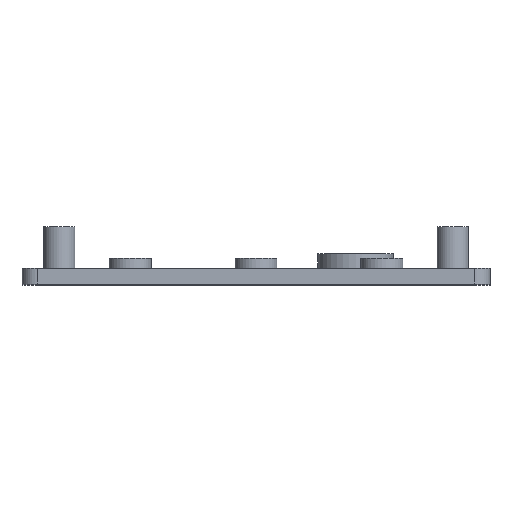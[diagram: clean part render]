
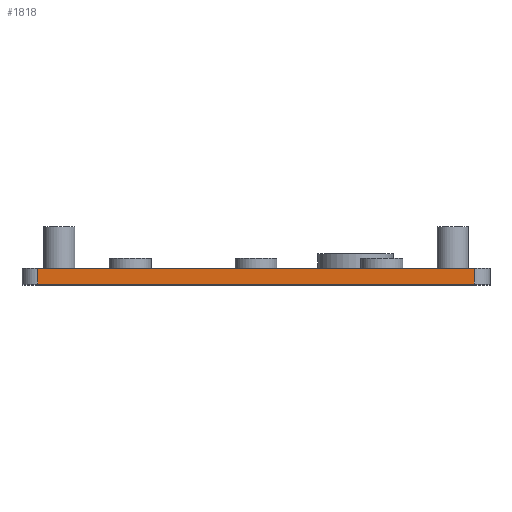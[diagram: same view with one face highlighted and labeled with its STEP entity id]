
A CAD part, top view. The second image highlights one B-rep face of the part: STEP entity #1818.
In plain terms, the highlighted planar face has unit normal (0, 0, 1).
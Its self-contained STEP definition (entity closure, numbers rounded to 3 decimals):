
#44 = PLANE('',#45);
#45 = AXIS2_PLACEMENT_3D('',#46,#47,#48);
#46 = CARTESIAN_POINT('',(3.4,1.,3.4));
#47 = DIRECTION('',(-0.,1.,0.));
#48 = DIRECTION('',(0.,0.,1.));
#100 = PLANE('',#101);
#101 = AXIS2_PLACEMENT_3D('',#102,#103,#104);
#102 = CARTESIAN_POINT('',(3.4,4.,3.4));
#103 = DIRECTION('',(-0.,1.,0.));
#104 = DIRECTION('',(0.,0.,1.));
#126 = CYLINDRICAL_SURFACE('',#127,3.);
#127 = AXIS2_PLACEMENT_3D('',#128,#129,#130);
#128 = CARTESIAN_POINT('',(6.4,1.,151.6));
#129 = DIRECTION('',(-0.,1.,0.));
#130 = DIRECTION('',(-1.,-0.,0.));
#199 = VERTEX_POINT('',#200);
#200 = CARTESIAN_POINT('',(6.4,1.,154.6));
#222 = EDGE_CURVE('',#199,#223,#225,.T.);
#223 = VERTEX_POINT('',#224);
#224 = CARTESIAN_POINT('',(89.6,1.,154.6));
#225 = SURFACE_CURVE('',#226,(#230,#237),.PCURVE_S1.);
#226 = LINE('',#227,#228);
#227 = CARTESIAN_POINT('',(3.4,1.,154.6));
#228 = VECTOR('',#229,1.);
#229 = DIRECTION('',(1.,0.,-0.));
#230 = PCURVE('',#44,#231);
#231 = DEFINITIONAL_REPRESENTATION('',(#232),#236);
#232 = LINE('',#233,#234);
#233 = CARTESIAN_POINT('',(151.2,0.));
#234 = VECTOR('',#235,1.);
#235 = DIRECTION('',(0.,1.));
#236 = ( GEOMETRIC_REPRESENTATION_CONTEXT(2)
PARAMETRIC_REPRESENTATION_CONTEXT() REPRESENTATION_CONTEXT('2D SPACE',''
  ) );
#237 = PCURVE('',#238,#243);
#238 = PLANE('',#239);
#239 = AXIS2_PLACEMENT_3D('',#240,#241,#242);
#240 = CARTESIAN_POINT('',(3.4,1.,154.6));
#241 = DIRECTION('',(0.,0.,1.));
#242 = DIRECTION('',(1.,0.,-0.));
#243 = DEFINITIONAL_REPRESENTATION('',(#244),#248);
#244 = LINE('',#245,#246);
#245 = CARTESIAN_POINT('',(0.,0.));
#246 = VECTOR('',#247,1.);
#247 = DIRECTION('',(1.,0.));
#248 = ( GEOMETRIC_REPRESENTATION_CONTEXT(2)
PARAMETRIC_REPRESENTATION_CONTEXT() REPRESENTATION_CONTEXT('2D SPACE',''
  ) );
#271 = CYLINDRICAL_SURFACE('',#272,3.);
#272 = AXIS2_PLACEMENT_3D('',#273,#274,#275);
#273 = CARTESIAN_POINT('',(89.6,1.,151.6));
#274 = DIRECTION('',(-0.,1.,0.));
#275 = DIRECTION('',(1.,0.,-0.));
#998 = EDGE_CURVE('',#199,#999,#1001,.T.);
#999 = VERTEX_POINT('',#1000);
#1000 = CARTESIAN_POINT('',(6.4,4.,154.6));
#1001 = SURFACE_CURVE('',#1002,(#1006,#1013),.PCURVE_S1.);
#1002 = LINE('',#1003,#1004);
#1003 = CARTESIAN_POINT('',(6.4,1.,154.6));
#1004 = VECTOR('',#1005,1.);
#1005 = DIRECTION('',(-0.,1.,0.));
#1006 = PCURVE('',#126,#1007);
#1007 = DEFINITIONAL_REPRESENTATION('',(#1008),#1012);
#1008 = LINE('',#1009,#1010);
#1009 = CARTESIAN_POINT('',(1.571,0.));
#1010 = VECTOR('',#1011,1.);
#1011 = DIRECTION('',(0.,1.));
#1012 = ( GEOMETRIC_REPRESENTATION_CONTEXT(2)
PARAMETRIC_REPRESENTATION_CONTEXT() REPRESENTATION_CONTEXT('2D SPACE',''
  ) );
#1013 = PCURVE('',#238,#1014);
#1014 = DEFINITIONAL_REPRESENTATION('',(#1015),#1019);
#1015 = LINE('',#1016,#1017);
#1016 = CARTESIAN_POINT('',(3.,0.));
#1017 = VECTOR('',#1018,1.);
#1018 = DIRECTION('',(0.,1.));
#1019 = ( GEOMETRIC_REPRESENTATION_CONTEXT(2)
PARAMETRIC_REPRESENTATION_CONTEXT() REPRESENTATION_CONTEXT('2D SPACE',''
  ) );
#1073 = EDGE_CURVE('',#999,#1074,#1076,.T.);
#1074 = VERTEX_POINT('',#1075);
#1075 = CARTESIAN_POINT('',(89.6,4.,154.6));
#1076 = SURFACE_CURVE('',#1077,(#1081,#1088),.PCURVE_S1.);
#1077 = LINE('',#1078,#1079);
#1078 = CARTESIAN_POINT('',(3.4,4.,154.6));
#1079 = VECTOR('',#1080,1.);
#1080 = DIRECTION('',(1.,0.,-0.));
#1081 = PCURVE('',#100,#1082);
#1082 = DEFINITIONAL_REPRESENTATION('',(#1083),#1087);
#1083 = LINE('',#1084,#1085);
#1084 = CARTESIAN_POINT('',(151.2,0.));
#1085 = VECTOR('',#1086,1.);
#1086 = DIRECTION('',(0.,1.));
#1087 = ( GEOMETRIC_REPRESENTATION_CONTEXT(2)
PARAMETRIC_REPRESENTATION_CONTEXT() REPRESENTATION_CONTEXT('2D SPACE',''
  ) );
#1088 = PCURVE('',#238,#1089);
#1089 = DEFINITIONAL_REPRESENTATION('',(#1090),#1094);
#1090 = LINE('',#1091,#1092);
#1091 = CARTESIAN_POINT('',(0.,3.));
#1092 = VECTOR('',#1093,1.);
#1093 = DIRECTION('',(1.,0.));
#1094 = ( GEOMETRIC_REPRESENTATION_CONTEXT(2)
PARAMETRIC_REPRESENTATION_CONTEXT() REPRESENTATION_CONTEXT('2D SPACE',''
  ) );
#1796 = EDGE_CURVE('',#223,#1074,#1797,.T.);
#1797 = SURFACE_CURVE('',#1798,(#1802,#1809),.PCURVE_S1.);
#1798 = LINE('',#1799,#1800);
#1799 = CARTESIAN_POINT('',(89.6,1.,154.6));
#1800 = VECTOR('',#1801,1.);
#1801 = DIRECTION('',(-0.,1.,0.));
#1802 = PCURVE('',#271,#1803);
#1803 = DEFINITIONAL_REPRESENTATION('',(#1804),#1808);
#1804 = LINE('',#1805,#1806);
#1805 = CARTESIAN_POINT('',(-1.571,0.));
#1806 = VECTOR('',#1807,1.);
#1807 = DIRECTION('',(-0.,1.));
#1808 = ( GEOMETRIC_REPRESENTATION_CONTEXT(2)
PARAMETRIC_REPRESENTATION_CONTEXT() REPRESENTATION_CONTEXT('2D SPACE',''
  ) );
#1809 = PCURVE('',#238,#1810);
#1810 = DEFINITIONAL_REPRESENTATION('',(#1811),#1815);
#1811 = LINE('',#1812,#1813);
#1812 = CARTESIAN_POINT('',(86.2,0.));
#1813 = VECTOR('',#1814,1.);
#1814 = DIRECTION('',(0.,1.));
#1815 = ( GEOMETRIC_REPRESENTATION_CONTEXT(2)
PARAMETRIC_REPRESENTATION_CONTEXT() REPRESENTATION_CONTEXT('2D SPACE',''
  ) );
#1818 = ADVANCED_FACE('',(#1819),#238,.T.);
#1819 = FACE_BOUND('',#1820,.T.);
#1820 = EDGE_LOOP('',(#1821,#1822,#1823,#1824));
#1821 = ORIENTED_EDGE('',*,*,#1073,.F.);
#1822 = ORIENTED_EDGE('',*,*,#998,.F.);
#1823 = ORIENTED_EDGE('',*,*,#222,.T.);
#1824 = ORIENTED_EDGE('',*,*,#1796,.T.);
